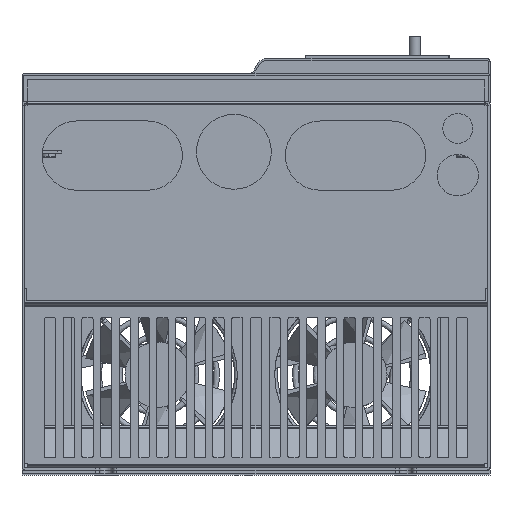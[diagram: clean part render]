
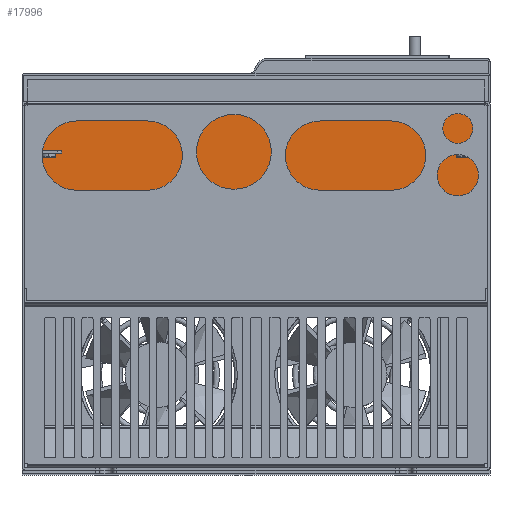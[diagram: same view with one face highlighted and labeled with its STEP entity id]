
A CAD part, top view. The second image highlights one B-rep face of the part: STEP entity #17996.
In plain terms, the highlighted planar face has unit normal (0, 0, 1) as drawn and (0, 1, 0) by its records, which use the part's own axes.
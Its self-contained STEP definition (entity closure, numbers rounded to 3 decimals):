
#982 = LINE ( 'NONE', #23087, #18776 ) ;
#1222 = ORIENTED_EDGE ( 'NONE', *, *, #58986, .T. ) ;
#2073 = CARTESIAN_POINT ( 'NONE',  ( -93.506, 1.2, 60. ) ) ;
#3179 = VERTEX_POINT ( 'NONE', #57705 ) ;
#3537 = CARTESIAN_POINT ( 'NONE',  ( -1.7, 1.2, 123.8 ) ) ;
#3774 = DIRECTION ( 'NONE',  ( 0., 0., -1. ) ) ;
#3836 = DIRECTION ( 'NONE',  ( 0., 0., -1. ) ) ;
#4127 = VERTEX_POINT ( 'NONE', #8634 ) ;
#5092 = VERTEX_POINT ( 'NONE', #83515 ) ;
#5279 = DIRECTION ( 'NONE',  ( -1., 0., 0. ) ) ;
#6020 = CARTESIAN_POINT ( 'NONE',  ( -1.7, 1.2, 123.8 ) ) ;
#8040 = VECTOR ( 'NONE', #82053, 1000. ) ;
#8174 = DIRECTION ( 'NONE',  ( 0., 0., -1. ) ) ;
#8438 = VECTOR ( 'NONE', #5279, 1000. ) ;
#8634 = CARTESIAN_POINT ( 'NONE',  ( -94.8, 1.2, -122.3 ) ) ;
#8989 = FACE_OUTER_BOUND ( 'NONE', #28645, .T. ) ;
#9267 = CARTESIAN_POINT ( 'NONE',  ( -93.505, 1.2, 20. ) ) ;
#9287 = VECTOR ( 'NONE', #16042, 1000. ) ;
#9979 = DIRECTION ( 'NONE',  ( 0., 0., -1. ) ) ;
#10037 = CARTESIAN_POINT ( 'NONE',  ( -93.506, 1.2, -60. ) ) ;
#10356 = VECTOR ( 'NONE', #3774, 1000. ) ;
#10922 = EDGE_CURVE ( 'NONE', #3179, #4127, #26199, .T. ) ;
#12933 = EDGE_CURVE ( 'NONE', #5092, #25161, #47008, .T. ) ;
#13849 = CARTESIAN_POINT ( 'NONE',  ( -94.8, 1.2, 123.8 ) ) ;
#14388 = CARTESIAN_POINT ( 'NONE',  ( -93.504, 1.2, 89.401 ) ) ;
#14802 = ORIENTED_EDGE ( 'NONE', *, *, #33374, .F. ) ;
#14897 = EDGE_CURVE ( 'NONE', #39185, #24799, #982, .T. ) ;
#16042 = DIRECTION ( 'NONE',  ( 1., 0., 0. ) ) ;
#17993 = EDGE_CURVE ( 'NONE', #24799, #3179, #30768, .T. ) ;
#17996 = ADVANCED_FACE ( 'NONE', ( #8989 ), #47973, .F. ) ;
#18776 = VECTOR ( 'NONE', #36504, 1000. ) ;
#22117 = B_SPLINE_CURVE_WITH_KNOTS ( 'NONE', 3,
 ( #75663, #82393, #42170, #2073 ),
 .UNSPECIFIED., .F., .F.,
 ( 4, 4 ),
 ( 0., 1. ),
 .UNSPECIFIED. ) ;
#22739 = CARTESIAN_POINT ( 'NONE',  ( -93.506, 1.2, 60. ) ) ;
#23087 = CARTESIAN_POINT ( 'NONE',  ( -93.508, 1.2, -70. ) ) ;
#23624 = LINE ( 'NONE', #68790, #59266 ) ;
#24332 = VERTEX_POINT ( 'NONE', #52478 ) ;
#24799 = VERTEX_POINT ( 'NONE', #54737 ) ;
#25161 = VERTEX_POINT ( 'NONE', #53775 ) ;
#26199 = LINE ( 'NONE', #52100, #8438 ) ;
#28645 = EDGE_LOOP ( 'NONE', ( #54773, #65632, #56215, #60556, #65302, #14802, #1222, #38941, #82462, #37925, #32637, #54529 ) ) ;
#30768 = B_SPLINE_CURVE_WITH_KNOTS ( 'NONE', 3,
 ( #68228, #75004, #34732, #81735 ),
 .UNSPECIFIED., .F., .F.,
 ( 4, 4 ),
 ( 0., 1. ),
 .UNSPECIFIED. ) ;
#31244 = VERTEX_POINT ( 'NONE', #76202 ) ;
#32637 = ORIENTED_EDGE ( 'NONE', *, *, #17993, .F. ) ;
#33077 = LINE ( 'NONE', #3537, #66691 ) ;
#33374 = EDGE_CURVE ( 'NONE', #59845, #75831, #43619, .T. ) ;
#34732 = CARTESIAN_POINT ( 'NONE',  ( -93.502, 1.2, -103.501 ) ) ;
#35308 = DIRECTION ( 'NONE',  ( 1., 0., 0. ) ) ;
#36149 = CARTESIAN_POINT ( 'NONE',  ( -93.505, 1.2, -20. ) ) ;
#36504 = DIRECTION ( 'NONE',  ( 0., 0., -1. ) ) ;
#37925 = ORIENTED_EDGE ( 'NONE', *, *, #10922, .F. ) ;
#38582 = CARTESIAN_POINT ( 'NONE',  ( -93.506, 1.2, 60. ) ) ;
#38941 = ORIENTED_EDGE ( 'NONE', *, *, #12933, .F. ) ;
#39185 = VERTEX_POINT ( 'NONE', #10037 ) ;
#39268 = CARTESIAN_POINT ( 'NONE',  ( -93.5, 1.2, 122.3 ) ) ;
#41494 = VECTOR ( 'NONE', #9979, 1000. ) ;
#41509 = CARTESIAN_POINT ( 'NONE',  ( -94.8, 1.2, 123.8 ) ) ;
#42170 = CARTESIAN_POINT ( 'NONE',  ( -93.508, 1.2, 66.667 ) ) ;
#43619 = LINE ( 'NONE', #55056, #8040 ) ;
#45940 = LINE ( 'NONE', #50575, #10356 ) ;
#47008 = LINE ( 'NONE', #82870, #9287 ) ;
#47763 = CARTESIAN_POINT ( 'NONE',  ( -93.5, 1.2, 122.3 ) ) ;
#47973 = PLANE ( 'NONE',  #84811 ) ;
#48250 = DIRECTION ( 'NONE',  ( 0., -1., 0. ) ) ;
#50075 = CARTESIAN_POINT ( 'NONE',  ( -94.8, 1.2, 123.8 ) ) ;
#50575 = CARTESIAN_POINT ( 'NONE',  ( -94.8, 1.2, 123.8 ) ) ;
#52100 = CARTESIAN_POINT ( 'NONE',  ( -94.8, 1.2, -122.3 ) ) ;
#52478 = CARTESIAN_POINT ( 'NONE',  ( -93.506, 1.2, 80. ) ) ;
#53775 = CARTESIAN_POINT ( 'NONE',  ( -1.7, 1.2, -123.8 ) ) ;
#53837 = EDGE_CURVE ( 'NONE', #86879, #24332, #86065, .T. ) ;
#54492 = CARTESIAN_POINT ( 'NONE',  ( -93.502, 1.2, 103.501 ) ) ;
#54529 = ORIENTED_EDGE ( 'NONE', *, *, #14897, .F. ) ;
#54737 = CARTESIAN_POINT ( 'NONE',  ( -93.506, 1.2, -80. ) ) ;
#54773 = ORIENTED_EDGE ( 'NONE', *, *, #82539, .F. ) ;
#55056 = CARTESIAN_POINT ( 'NONE',  ( -94.8, 1.2, 123.8 ) ) ;
#56215 = ORIENTED_EDGE ( 'NONE', *, *, #53837, .F. ) ;
#57564 = EDGE_CURVE ( 'NONE', #75831, #31244, #45940, .T. ) ;
#57643 = B_SPLINE_CURVE_WITH_KNOTS ( 'NONE', 3,
 ( #22739, #9267, #36149, #83133 ),
 .UNSPECIFIED., .F., .F.,
 ( 4, 4 ),
 ( 0., 1. ),
 .UNSPECIFIED. ) ;
#57705 = CARTESIAN_POINT ( 'NONE',  ( -93.5, 1.2, -122.3 ) ) ;
#58943 = EDGE_CURVE ( 'NONE', #4127, #5092, #59346, .T. ) ;
#58986 = EDGE_CURVE ( 'NONE', #59845, #25161, #33077, .T. ) ;
#59266 = VECTOR ( 'NONE', #35308, 1000. ) ;
#59346 = LINE ( 'NONE', #50075, #41494 ) ;
#59447 = EDGE_CURVE ( 'NONE', #31244, #86879, #23624, .T. ) ;
#59845 = VERTEX_POINT ( 'NONE', #6020 ) ;
#60556 = ORIENTED_EDGE ( 'NONE', *, *, #59447, .F. ) ;
#61259 = CARTESIAN_POINT ( 'NONE',  ( -93.506, 1.2, 80. ) ) ;
#65302 = ORIENTED_EDGE ( 'NONE', *, *, #57564, .F. ) ;
#65632 = ORIENTED_EDGE ( 'NONE', *, *, #65931, .F. ) ;
#65931 = EDGE_CURVE ( 'NONE', #24332, #77804, #22117, .T. ) ;
#66691 = VECTOR ( 'NONE', #3836, 1000. ) ;
#68228 = CARTESIAN_POINT ( 'NONE',  ( -93.506, 1.2, -80. ) ) ;
#68790 = CARTESIAN_POINT ( 'NONE',  ( -94.8, 1.2, 122.3 ) ) ;
#75004 = CARTESIAN_POINT ( 'NONE',  ( -93.504, 1.2, -89.401 ) ) ;
#75663 = CARTESIAN_POINT ( 'NONE',  ( -93.506, 1.2, 80. ) ) ;
#75831 = VERTEX_POINT ( 'NONE', #13849 ) ;
#76202 = CARTESIAN_POINT ( 'NONE',  ( -94.8, 1.2, 122.3 ) ) ;
#77804 = VERTEX_POINT ( 'NONE', #38582 ) ;
#81735 = CARTESIAN_POINT ( 'NONE',  ( -93.5, 1.2, -122.3 ) ) ;
#82053 = DIRECTION ( 'NONE',  ( -1., 0., 0. ) ) ;
#82393 = CARTESIAN_POINT ( 'NONE',  ( -93.508, 1.2, 73.333 ) ) ;
#82462 = ORIENTED_EDGE ( 'NONE', *, *, #58943, .F. ) ;
#82539 = EDGE_CURVE ( 'NONE', #77804, #39185, #57643, .T. ) ;
#82870 = CARTESIAN_POINT ( 'NONE',  ( -94.8, 1.2, -123.8 ) ) ;
#83133 = CARTESIAN_POINT ( 'NONE',  ( -93.506, 1.2, -60. ) ) ;
#83515 = CARTESIAN_POINT ( 'NONE',  ( -94.8, 1.2, -123.8 ) ) ;
#84811 = AXIS2_PLACEMENT_3D ( 'NONE', #41509, #48250, #8174 ) ;
#86065 = B_SPLINE_CURVE_WITH_KNOTS ( 'NONE', 3,
 ( #47763, #54492, #14388, #61259 ),
 .UNSPECIFIED., .F., .F.,
 ( 4, 4 ),
 ( 0., 1. ),
 .UNSPECIFIED. ) ;
#86879 = VERTEX_POINT ( 'NONE', #39268 ) ;
